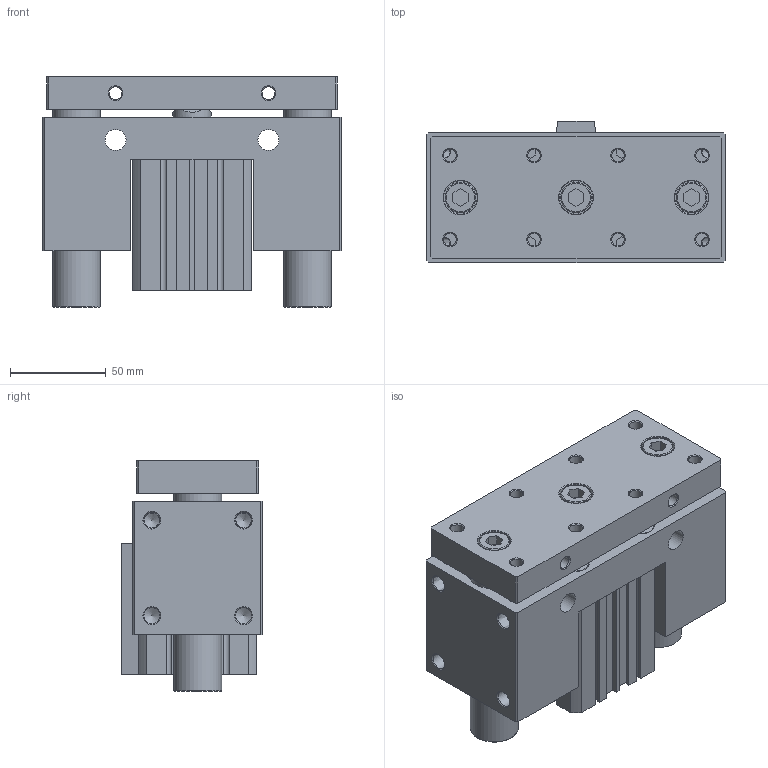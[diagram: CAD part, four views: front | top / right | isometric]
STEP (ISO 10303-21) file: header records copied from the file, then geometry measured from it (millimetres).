
FILE_DESCRIPTION((''),'2;1');
FILE_NAME('I:\3D電子目錄\氣缸\JCB\JCB\JCB50-S\JCB50x30-S.stp','2007-08-30T16:30:21',('Administrator'),(''),'Autodesk Inventor 11','Autodesk Inventor 11','');
FILE_SCHEMA(('AUTOMOTIVE_DESIGN { 1 0 10303 214 1 1 1 1 }'));
Length unit declared in the file: millimetre
Products named in the file (1): JCB50
Bounding box: 156 x 74 x 120.5 mm (x, y, z)
Volume: 907784.6 mm3; surface area: 167466 mm2
Topology: 3 solids, 3 shells, 328 faces, 786 edges, 510 vertices
Faces by surface type: plane 190, cylinder 58, cone 45, bspline 31, torus 4
Full cylindrical faces by diameter (mm): 2.7 x2, 6.8 x4, 8.376 x4, 11 x8, 13 x4, 14 x4, 16 x3, 17.5 x3, 20 x1, 21 x1, 25 x2, 28 x2, 37 x1, 38 x1, 52 x4, 55 x2
Entity records: 9390 total; most frequent: CARTESIAN_POINT 2294, DIRECTION 1434, ORIENTED_EDGE 1264, EDGE_CURVE 632, EDGE_LOOP 536, AXIS2_PLACEMENT_3D 512, VERTEX_POINT 480, VECTOR 410
